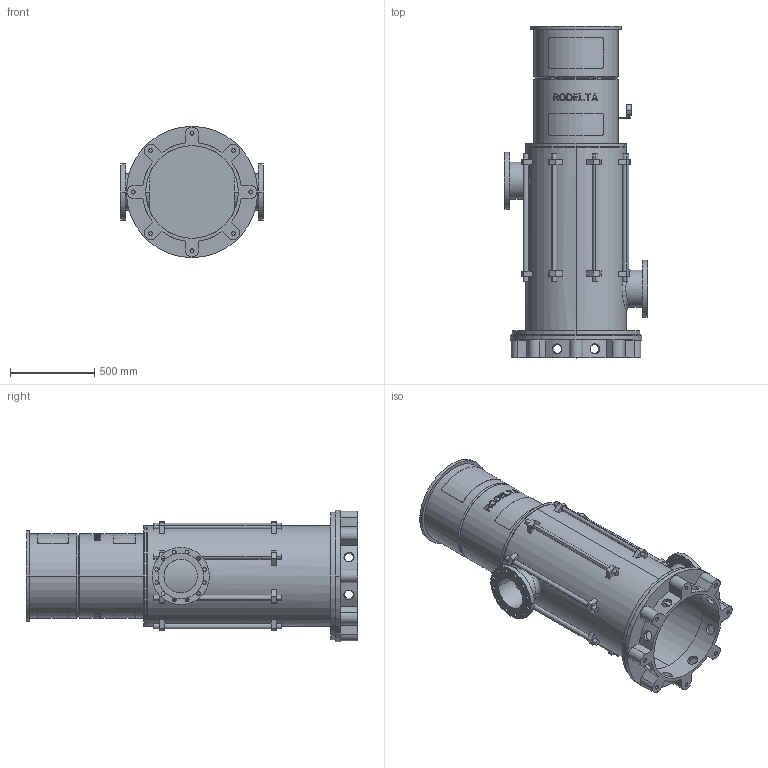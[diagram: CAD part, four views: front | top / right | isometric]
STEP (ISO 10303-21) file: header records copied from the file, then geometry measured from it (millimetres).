
FILE_DESCRIPTION((''),'2;1');
FILE_NAME('LS8_2TR_0GR','2025-10-17T13:02:01',('Lyritlocal'),(''),'CREO PARAMETRIC BY PTC INC, 2022014','CREO PARAMETRIC BY PTC INC, 2022014','');
FILE_SCHEMA(('CONFIG_CONTROL_DESIGN'));
Length unit declared in the file: millimetre
Products named in the file (1): LS8_2TR_0GR
Bounding box: 850 x 1972 x 780 mm (x, y, z)
Volume: 70966698.6 mm3; surface area: 9758257.5 mm2
Topology: 3 solids, 11 shells, 723 faces, 1878 edges, 1246 vertices
Faces by surface type: plane 440, cylinder 267, cone 12, bspline 4
Entity records: 23697 total; most frequent: CARTESIAN_POINT 6016, ORIENTED_EDGE 3724, DIRECTION 3488, EDGE_CURVE 1878, AXIS2_PLACEMENT_3D 1302, VERTEX_POINT 1246, EDGE_LOOP 888, VECTOR 884
